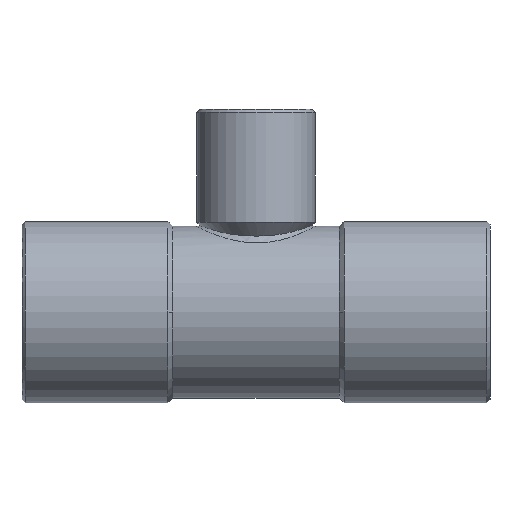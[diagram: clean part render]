
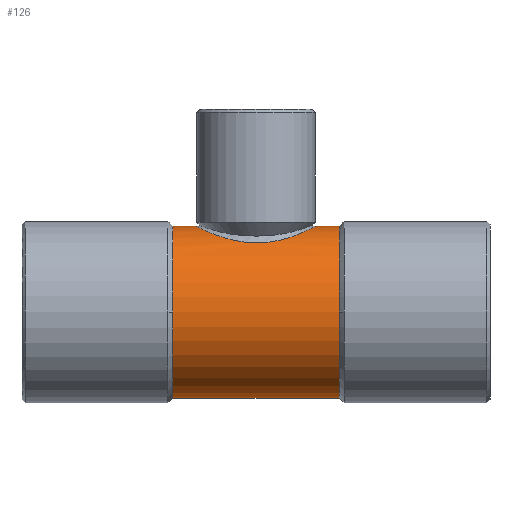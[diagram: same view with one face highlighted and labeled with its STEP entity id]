
A CAD part, top view. The second image highlights one B-rep face of the part: STEP entity #126.
In plain terms, the highlighted cylindrical face has radius 5.5 mm (diameter 11 mm), a partial arc.
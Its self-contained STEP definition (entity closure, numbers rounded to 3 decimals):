
#44=CARTESIAN_POINT('',(0.0,0.,0.0));
#45=DIRECTION('',(1.0,0.,0.0));
#46=DIRECTION('',(0.0,1.0,0.0));
#47=AXIS2_PLACEMENT_3D('',#44,#45,#46);
#48=CYLINDRICAL_SURFACE('',#47,5.5);
#49=CARTESIAN_POINT('',(-5.35,5.5,0.));
#50=VERTEX_POINT('',#49);
#51=CARTESIAN_POINT('',(-3.85,5.5,0.));
#52=VERTEX_POINT('',#51);
#53=CARTESIAN_POINT('',(-5.35,5.5,0.));
#54=DIRECTION('',(1.0,0.0,0.0));
#55=VECTOR('',#54,1.5);
#56=LINE('',#53,#55);
#57=EDGE_CURVE('',#50,#52,#56,.T.);
#58=ORIENTED_EDGE('',*,*,#57,.F.);
#59=CARTESIAN_POINT('',(-5.35,0.,5.5));
#60=VERTEX_POINT('',#59);
#61=CARTESIAN_POINT('',(-5.35,0.,0.0));
#62=DIRECTION('',(1.0,0.0,0.0));
#63=DIRECTION('',(0.0,1.0,0.0));
#64=AXIS2_PLACEMENT_3D('',#61,#62,#63);
#65=CIRCLE('',#64,5.5);
#66=EDGE_CURVE('',#50,#60,#65,.T.);
#67=ORIENTED_EDGE('',*,*,#66,.T.);
#68=CARTESIAN_POINT('',(-5.35,-5.5,0.));
#69=VERTEX_POINT('',#68);
#70=CARTESIAN_POINT('',(-5.35,0.,0.0));
#71=DIRECTION('',(1.0,0.0,0.0));
#72=DIRECTION('',(0.0,1.0,0.0));
#73=AXIS2_PLACEMENT_3D('',#70,#71,#72);
#74=CIRCLE('',#73,5.5);
#75=EDGE_CURVE('',#60,#69,#74,.T.);
#76=ORIENTED_EDGE('',*,*,#75,.T.);
#77=CARTESIAN_POINT('',(5.35,-5.5,0.));
#78=VERTEX_POINT('',#77);
#79=CARTESIAN_POINT('',(5.35,-5.5,0.));
#80=DIRECTION('',(-1.0,0.0,0.0));
#81=VECTOR('',#80,10.7);
#82=LINE('',#79,#81);
#83=EDGE_CURVE('',#78,#69,#82,.T.);
#84=ORIENTED_EDGE('',*,*,#83,.F.);
#85=CARTESIAN_POINT('',(5.35,0.,5.5));
#86=VERTEX_POINT('',#85);
#87=CARTESIAN_POINT('',(5.35,0.,0.0));
#88=DIRECTION('',(-1.0,0.0,0.0));
#89=DIRECTION('',(0.0,1.0,0.0));
#90=AXIS2_PLACEMENT_3D('',#87,#88,#89);
#91=CIRCLE('',#90,5.5);
#92=EDGE_CURVE('',#78,#86,#91,.T.);
#93=ORIENTED_EDGE('',*,*,#92,.T.);
#94=CARTESIAN_POINT('',(5.35,5.5,0.));
#95=VERTEX_POINT('',#94);
#96=CARTESIAN_POINT('',(5.35,0.,0.0));
#97=DIRECTION('',(-1.0,0.0,0.0));
#98=DIRECTION('',(0.0,1.0,0.0));
#99=AXIS2_PLACEMENT_3D('',#96,#97,#98);
#100=CIRCLE('',#99,5.5);
#101=EDGE_CURVE('',#86,#95,#100,.T.);
#102=ORIENTED_EDGE('',*,*,#101,.T.);
#103=CARTESIAN_POINT('',(3.85,5.5,0.));
#104=VERTEX_POINT('',#103);
#105=CARTESIAN_POINT('',(3.85,5.5,0.));
#106=DIRECTION('',(1.0,0.0,0.0));
#107=VECTOR('',#106,1.5);
#108=LINE('',#105,#107);
#109=EDGE_CURVE('',#104,#95,#108,.T.);
#110=ORIENTED_EDGE('',*,*,#109,.F.);
#111=CARTESIAN_POINT('',(-3.85,5.5,0.));
#112=CARTESIAN_POINT('',(-3.85,5.5,0.386));
#113=CARTESIAN_POINT('',(-3.764,5.456,0.788));
#114=CARTESIAN_POINT('',(-2.988,5.084,2.527));
#115=CARTESIAN_POINT('',(-1.25,4.312,3.422));
#116=CARTESIAN_POINT('',(1.906,4.564,3.076));
#117=CARTESIAN_POINT('',(3.09,5.133,2.277));
#118=CARTESIAN_POINT('',(3.761,5.454,0.801));
#119=CARTESIAN_POINT('',(3.85,5.5,0.4));
#120=CARTESIAN_POINT('',(3.85,5.5,0.));
#121=B_SPLINE_CURVE_WITH_KNOTS('',3,(#111,#112,#113,#114,#115,#116,#117,#118,#119,#120),.UNSPECIFIED.,.F.,.U.,(4,2,2,2,4),(0.439,0.538,0.913,1.216,1.317),.UNSPECIFIED.);
#122=EDGE_CURVE('',#52,#104,#121,.T.);
#123=ORIENTED_EDGE('',*,*,#122,.F.);
#124=EDGE_LOOP('',(#58,#67,#76,#84,#93,#102,#110,#123));
#125=FACE_OUTER_BOUND('',#124,.T.);
#126=ADVANCED_FACE('',(#125),#48,.T.);
